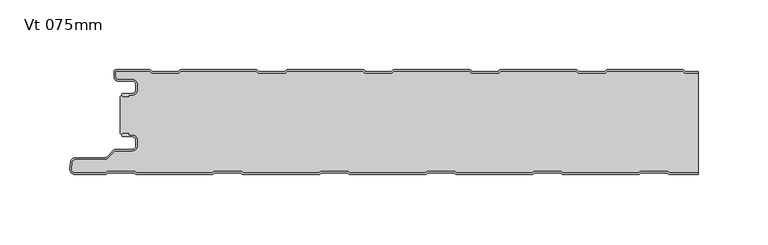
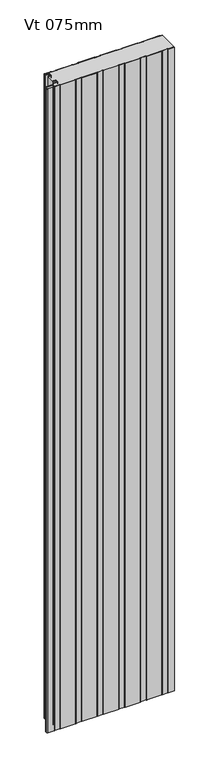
"""IFC4 building model written with IfcOpenShell, lengths in millimetres: plate geometry, KIP-MEX-KSS-1067-R19-CP-Vt-SL_SL : Vt 075mm."""

from ifc_helpers import new_model, si_unit, point, frame, frame_2d, origin, origin_with_axes, place, context, project, spatial, polyline, circle_curve, trimmed, segment, composite_curve, outline, extrude, source, transform, mapped, element, save
from ifc_brep_helpers import plane_surface, cylinder_surface, revolved_surface, advanced_brep


def vt_075mm_737b0a10(model_context):
    return source(origin(), model_context, "Body", "SolidModel", [
        advanced_brep(
        [(-204.468691, -17.0015159, 2400.0), (-205.4686883, -18.0015191, 2400.0), (-204.468691, -19.0015105, 2400.0), (-200.4684874, -19.0015105, 2400.0), (-200.4684874, -18.0015159, 2400.0), (-197.7762776, -18.0015159, 2400.0), (-194.4762819, -14.7015202, 2400.0), (-194.4762819, -10.301529, 2400.0), (-197.7762774, -7.0015335, 2400.0), (-208.1962563, -7.0015335, 2400.0), (-209.9662505, -5.2315393, 2400.0), (-209.9662505, -0.9999916, 2400.0), (-185.4659738, -0.9999916, 2400.0), (-184.0803312, -2.2002307, 2400.0), (-164.7051649, -2.2002307, 2400.0), (-163.319532, -1.0, 2400.0), (-109.2661166, -1.0, 2400.0), (-107.8804836, -2.2002307, 2400.0), (-88.5053173, -2.2002307, 2400.0), (-87.1196844, -1.0, 2400.0), (-33.066269, -1.0, 2400.0), (-31.680636, -2.2002307, 2400.0), (-12.3054697, -2.2002307, 2400.0), (-10.9198368, -1.0, 2400.0), (43.1335786, -1.0, 2400.0), (44.5192116, -2.2002307, 2400.0), (63.8943779, -2.2002307, 2400.0), (65.2800108, -1.0, 2400.0), (119.3334262, -1.0, 2400.0), (120.7190592, -2.2002307, 2400.0), (140.0942255, -2.2002307, 2400.0), (141.4798584, -1.0, 2400.0), (195.5332738, -1.0, 2400.0), (196.9189068, -2.2002307, 2400.0), (206.4999998, -2.2002307, 2400.0), (206.4999998, -1.2002307, 2400.0), (197.2917872, -1.2002307, 2400.0), (196.3007396, -0.3417885, 2400.0), (195.3841227, 0.0, 2400.0), (141.6290096, 0.0, 2400.0), (140.7123927, -0.3417885, 2400.0), (139.7213451, -1.2002307, 2400.0), (121.0919396, -1.2002307, 2400.0), (120.100892, -0.3417885, 2400.0), (119.1842751, 0.0, 2400.0), (65.429162, 0.0, 2400.0), (64.5125451, -0.3417885, 2400.0), (63.5214975, -1.2002307, 2400.0), (44.892092, -1.2002307, 2400.0), (43.9010444, -0.3417885, 2400.0), (42.9844275, 0.0, 2400.0), (-10.7706856, 0.0, 2400.0), (-11.6873025, -0.3417885, 2400.0), (-12.6783501, -1.2002307, 2400.0), (-31.3077556, -1.2002307, 2400.0), (-32.2988032, -0.3417885, 2400.0), (-33.2154201, 0.0, 2400.0), (-86.9705332, 0.0, 2400.0), (-87.8871501, -0.3417885, 2400.0), (-88.8781977, -1.2002307, 2400.0), (-107.5076032, -1.2002307, 2400.0), (-108.4986508, -0.3417885, 2400.0), (-109.4152677, 0.0, 2400.0), (-163.1703808, 0.0, 2400.0), (-164.0869977, -0.3417885, 2400.0), (-165.0780453, -1.2002307, 2400.0), (-183.7074508, -1.2002307, 2400.0), (-184.6984984, -0.3417885, 2400.0), (-185.6152067, 0.0, 2400.0), (-209.5662543, 8.4e-06, 2400.0), (-210.9662505, -1.3999878, 2400.0), (-210.9662505, -5.2315393, 2400.0), (-208.1962563, -8.0015335, 2400.0), (-197.7762774, -8.0015335, 2400.0), (-195.4762819, -10.301529, 2400.0), (-195.4762819, -14.7015202, 2400.0), (-197.7762776, -17.0015159, 2400.0), (-204.468691, -17.0015159, 0.0), (-197.7762776, -17.0015159, 0.0), (-195.4762819, -14.7015202, 0.0), (-195.4762819, -10.301529, 0.0), (-197.7762774, -8.0015335, 0.0), (-208.1962563, -8.0015335, 0.0), (-210.9662505, -5.2315393, 0.0), (-210.9662505, -1.3999878, 0.0), (-209.5662543, 8.4e-06, 0.0), (-185.6151153, 8.4e-06, 0.0), (-184.6984984, -0.3417885, 0.0), (-183.7074508, -1.2002307, 0.0), (-165.0780453, -1.2002307, 0.0), (-164.0869977, -0.3417885, 0.0), (-163.1703808, 0.0, 0.0), (-109.4152677, 0.0, 0.0), (-108.4986508, -0.3417885, 0.0), (-107.5076032, -1.2002307, 0.0), (-88.8781977, -1.2002307, 0.0), (-87.8871501, -0.3417885, 0.0), (-86.9705332, 0.0, 0.0), (-33.2154201, 0.0, 0.0), (-32.2988032, -0.3417885, 0.0), (-31.3077556, -1.2002307, 0.0), (-12.6783501, -1.2002307, 0.0), (-11.6873025, -0.3417885, 0.0), (-10.7706856, 0.0, 0.0), (42.9844275, 0.0, 0.0), (43.9010444, -0.3417885, 0.0), (44.892092, -1.2002307, 0.0), (63.5214975, -1.2002307, 0.0), (64.5125451, -0.3417885, 0.0), (65.429162, 0.0, 0.0), (119.1842751, 0.0, 0.0), (120.100892, -0.3417885, 0.0), (121.0919396, -1.2002307, 0.0), (139.7213451, -1.2002307, 0.0), (140.7123927, -0.3417885, 0.0), (141.6290096, 0.0, 0.0), (195.3841227, 0.0, 0.0), (196.3007396, -0.3417885, 0.0), (197.2917872, -1.2002307, 0.0), (206.4999998, -1.2002307, 0.0), (206.4999998, -2.2002307, 0.0), (196.9189068, -2.2002307, 0.0), (195.5332738, -1.0, 0.0), (141.4798584, -1.0, 0.0), (140.0942255, -2.2002307, 0.0), (120.7190592, -2.2002307, 0.0), (119.3334262, -1.0, 0.0), (65.2800108, -1.0, 0.0), (63.8943779, -2.2002307, 0.0), (44.5192116, -2.2002307, 0.0), (43.1335786, -1.0, 0.0), (-10.9198368, -1.0, 0.0), (-12.3054697, -2.2002307, 0.0), (-31.680636, -2.2002307, 0.0), (-33.066269, -1.0, 0.0), (-87.1196844, -1.0, 0.0), (-88.5053173, -2.2002307, 0.0), (-107.8804836, -2.2002307, 0.0), (-109.2661166, -1.0, 0.0), (-163.319532, -1.0, 0.0), (-164.7051649, -2.2002307, 0.0), (-184.0803312, -2.2002307, 0.0), (-185.4659738, -0.9999916, 0.0), (-209.9662505, -0.9999916, 0.0), (-209.9662505, -5.2315393, 0.0), (-208.1962563, -7.0015335, 0.0), (-197.7762774, -7.0015335, 0.0), (-194.4762819, -10.301529, 0.0), (-194.4762819, -14.7015202, 0.0), (-197.7762776, -18.0015159, 0.0), (-200.4684874, -18.0015159, 0.0), (-200.4684874, -19.0015105, 0.0), (-204.468691, -19.0015105, 0.0), (-205.4686882, -18.0015192, 0.0)],
        [
            (0, 1, circle_curve(frame((-204.468691, -18.0015132, 2400.0), z_axis=(0.0, 0.0, 1.0), x_axis=(1.0, 0.0, 0.0)), 0.9999973)),
            (1, 2, circle_curve(frame((-204.468691, -18.0015133, 2400.0), z_axis=(0.0, 0.0, 1.0), x_axis=(1.0, 0.0, 0.0)), 0.9999972)),
            (2, 3),
            (3, 4),
            (4, 5),
            (5, 6, circle_curve(frame((-197.7762776, -14.7015202, 2400.0), z_axis=(0.0, 0.0, 1.0), x_axis=(1.0, 0.0, 0.0)), 3.2999957)),
            (6, 7),
            (7, 8, circle_curve(frame((-197.7762774, -10.301529, 2400.0), z_axis=(0.0, 0.0, 1.0), x_axis=(1.0, 0.0, 0.0)), 3.2999955)),
            (8, 9),
            (9, 10, circle_curve(frame((-208.1962563, -5.2315393, 2400.0), z_axis=(0.0, 0.0, -1.0), x_axis=(1.0, 0.0, 0.0)), 1.7699942)),
            (10, 11),
            (11, 12),
            (12, 13),
            (13, 14),
            (14, 15),
            (15, 16),
            (16, 17),
            (17, 18),
            (18, 19),
            (19, 20),
            (20, 21),
            (21, 22),
            (22, 23),
            (23, 24),
            (24, 25),
            (25, 26),
            (26, 27),
            (27, 28),
            (28, 29),
            (29, 30),
            (30, 31),
            (31, 32),
            (32, 33),
            (33, 34),
            (34, 35),
            (35, 36),
            (36, 37),
            (37, 38, circle_curve(frame((195.3841227, -1.3999972, 2400.0), z_axis=(0.0, 0.0, 1.0), x_axis=(1.0, 0.0, 0.0)), 1.3999972)),
            (38, 39),
            (39, 40, circle_curve(frame((141.6290096, -1.3999972, 2400.0), z_axis=(0.0, 0.0, 1.0), x_axis=(1.0, 0.0, 0.0)), 1.3999972)),
            (40, 41),
            (41, 42),
            (42, 43),
            (43, 44, circle_curve(frame((119.1842751, -1.3999972, 2400.0), z_axis=(0.0, 0.0, 1.0), x_axis=(1.0, 0.0, 0.0)), 1.3999972)),
            (44, 45),
            (45, 46, circle_curve(frame((65.429162, -1.3999972, 2400.0), z_axis=(0.0, 0.0, 1.0), x_axis=(1.0, 0.0, 0.0)), 1.3999972)),
            (46, 47),
            (47, 48),
            (48, 49),
            (49, 50, circle_curve(frame((42.9844275, -1.3999972, 2400.0), z_axis=(0.0, 0.0, 1.0), x_axis=(1.0, 0.0, 0.0)), 1.3999972)),
            (50, 51),
            (51, 52, circle_curve(frame((-10.7706856, -1.3999972, 2400.0), z_axis=(0.0, 0.0, 1.0), x_axis=(1.0, 0.0, 0.0)), 1.3999972)),
            (52, 53),
            (53, 54),
            (54, 55),
            (55, 56, circle_curve(frame((-33.2154201, -1.3999972, 2400.0), z_axis=(0.0, 0.0, 1.0), x_axis=(1.0, 0.0, 0.0)), 1.3999972)),
            (56, 57),
            (57, 58, circle_curve(frame((-86.9705332, -1.3999972, 2400.0), z_axis=(0.0, 0.0, 1.0), x_axis=(1.0, 0.0, 0.0)), 1.3999972)),
            (58, 59),
            (59, 60),
            (60, 61),
            (61, 62, circle_curve(frame((-109.4152677, -1.3999972, 2400.0), z_axis=(0.0, 0.0, 1.0), x_axis=(1.0, 0.0, 0.0)), 1.3999972)),
            (62, 63),
            (63, 64, circle_curve(frame((-163.1703808, -1.3999972, 2400.0), z_axis=(0.0, 0.0, 1.0), x_axis=(1.0, 0.0, 0.0)), 1.3999972)),
            (64, 65),
            (65, 66),
            (66, 67),
            (67, 68, circle_curve(frame((-185.6151153, -1.3999972, 2400.0), z_axis=(0.0, 0.0, 1.0), x_axis=(1.0, 0.0, 0.0)), 1.3999972)),
            (68, 69),
            (69, 70, circle_curve(frame((-209.5662543, -1.3999878, 2400.0), z_axis=(0.0, 0.0, 1.0), x_axis=(1.0, 0.0, 0.0)), 1.3999962)),
            (70, 71),
            (71, 72, circle_curve(frame((-208.1962563, -5.2315393, 2400.0), z_axis=(0.0, 0.0, 1.0), x_axis=(1.0, 0.0, 0.0)), 2.7699942)),
            (72, 73),
            (73, 74, circle_curve(frame((-197.7762774, -10.301529, 2400.0), z_axis=(0.0, 0.0, -1.0), x_axis=(1.0, 0.0, 0.0)), 2.2999955)),
            (74, 75),
            (75, 76, circle_curve(frame((-197.7762776, -14.7015202, 2400.0), z_axis=(0.0, 0.0, -1.0), x_axis=(1.0, 0.0, 0.0)), 2.2999957)),
            (76, 0),
            (77, 78),
            (78, 79, circle_curve(frame((-197.7762776, -14.7015202, 0.0), z_axis=(0.0, 0.0, 1.0), x_axis=(1.0, 0.0, 0.0)), 2.2999957)),
            (79, 80),
            (80, 81, circle_curve(frame((-197.7762774, -10.301529, 0.0), z_axis=(0.0, 0.0, 1.0), x_axis=(1.0, 0.0, 0.0)), 2.2999955)),
            (81, 82),
            (82, 83, circle_curve(frame((-208.1962563, -5.2315393, 0.0), z_axis=(0.0, 0.0, -1.0), x_axis=(1.0, 0.0, 0.0)), 2.7699942)),
            (83, 84),
            (84, 85, circle_curve(frame((-209.5662543, -1.3999878, 0.0), z_axis=(0.0, 0.0, -1.0), x_axis=(1.0, 0.0, 0.0)), 1.3999962)),
            (85, 86),
            (86, 87, circle_curve(frame((-185.6151153, -1.3999972, 0.0), z_axis=(0.0, 0.0, -1.0), x_axis=(1.0, 0.0, 0.0)), 1.3999972)),
            (87, 88),
            (88, 89),
            (89, 90),
            (90, 91, circle_curve(frame((-163.1703808, -1.3999972, 0.0), z_axis=(0.0, 0.0, -1.0), x_axis=(1.0, 0.0, 0.0)), 1.3999972)),
            (91, 92),
            (92, 93, circle_curve(frame((-109.4152677, -1.3999972, 0.0), z_axis=(0.0, 0.0, -1.0), x_axis=(1.0, 0.0, 0.0)), 1.3999972)),
            (93, 94),
            (94, 95),
            (95, 96),
            (96, 97, circle_curve(frame((-86.9705332, -1.3999972, 0.0), z_axis=(0.0, 0.0, -1.0), x_axis=(1.0, 0.0, 0.0)), 1.3999972)),
            (97, 98),
            (98, 99, circle_curve(frame((-33.2154201, -1.3999972, 0.0), z_axis=(0.0, 0.0, -1.0), x_axis=(1.0, 0.0, 0.0)), 1.3999972)),
            (99, 100),
            (100, 101),
            (101, 102),
            (102, 103, circle_curve(frame((-10.7706856, -1.3999972, 0.0), z_axis=(0.0, 0.0, -1.0), x_axis=(1.0, 0.0, 0.0)), 1.3999972)),
            (103, 104),
            (104, 105, circle_curve(frame((42.9844275, -1.3999972, 0.0), z_axis=(0.0, 0.0, -1.0), x_axis=(1.0, 0.0, 0.0)), 1.3999972)),
            (105, 106),
            (106, 107),
            (107, 108),
            (108, 109, circle_curve(frame((65.429162, -1.3999972, 0.0), z_axis=(0.0, 0.0, -1.0), x_axis=(1.0, 0.0, 0.0)), 1.3999972)),
            (109, 110),
            (110, 111, circle_curve(frame((119.1842751, -1.3999972, 0.0), z_axis=(0.0, 0.0, -1.0), x_axis=(1.0, 0.0, 0.0)), 1.3999972)),
            (111, 112),
            (112, 113),
            (113, 114),
            (114, 115, circle_curve(frame((141.6290096, -1.3999972, 0.0), z_axis=(0.0, 0.0, -1.0), x_axis=(1.0, 0.0, 0.0)), 1.3999972)),
            (115, 116),
            (116, 117, circle_curve(frame((195.3841227, -1.3999972, 0.0), z_axis=(0.0, 0.0, -1.0), x_axis=(1.0, 0.0, 0.0)), 1.3999972)),
            (117, 118),
            (118, 119),
            (119, 120),
            (120, 121),
            (121, 122),
            (122, 123),
            (123, 124),
            (124, 125),
            (125, 126),
            (126, 127),
            (127, 128),
            (128, 129),
            (129, 130),
            (130, 131),
            (131, 132),
            (132, 133),
            (133, 134),
            (134, 135),
            (135, 136),
            (136, 137),
            (137, 138),
            (138, 139),
            (139, 140),
            (140, 141),
            (141, 142),
            (142, 143),
            (143, 144),
            (144, 145, circle_curve(frame((-208.1962563, -5.2315393, 0.0), z_axis=(0.0, 0.0, 1.0), x_axis=(1.0, 0.0, 0.0)), 1.7699942)),
            (145, 146),
            (146, 147, circle_curve(frame((-197.7762774, -10.301529, 0.0), z_axis=(0.0, 0.0, -1.0), x_axis=(1.0, 0.0, 0.0)), 3.2999955)),
            (147, 148),
            (148, 149, circle_curve(frame((-197.7762776, -14.7015202, 0.0), z_axis=(0.0, 0.0, -1.0), x_axis=(1.0, 0.0, 0.0)), 3.2999957)),
            (149, 150),
            (150, 151),
            (151, 152),
            (152, 153, circle_curve(frame((-204.468691, -18.0015133, 0.0), z_axis=(0.0, 0.0, -1.0), x_axis=(1.0, 0.0, 0.0)), 0.9999972)),
            (153, 77, circle_curve(frame((-204.468691, -18.0015132, 0.0), z_axis=(0.0, 0.0, -1.0), x_axis=(1.0, 0.0, 0.0)), 0.9999973)),
            (76, 78),
            (77, 0),
            (75, 79),
            (74, 80),
            (73, 81),
            (72, 82),
            (71, 83),
            (70, 84),
            (69, 85),
            (68, 86),
            (67, 87),
            (66, 88),
            (65, 89),
            (64, 90),
            (63, 91),
            (62, 92),
            (61, 93),
            (60, 94),
            (59, 95),
            (58, 96),
            (57, 97),
            (56, 98),
            (55, 99),
            (54, 100),
            (53, 101),
            (52, 102),
            (51, 103),
            (50, 104),
            (49, 105),
            (48, 106),
            (47, 107),
            (46, 108),
            (45, 109),
            (44, 110),
            (43, 111),
            (42, 112),
            (41, 113),
            (40, 114),
            (39, 115),
            (38, 116),
            (37, 117),
            (36, 118),
            (35, 119),
            (120, 34),
            (33, 121),
            (32, 122),
            (31, 123),
            (30, 124),
            (29, 125),
            (28, 126),
            (27, 127),
            (26, 128),
            (25, 129),
            (24, 130),
            (23, 131),
            (22, 132),
            (21, 133),
            (20, 134),
            (19, 135),
            (18, 136),
            (17, 137),
            (16, 138),
            (15, 139),
            (14, 140),
            (13, 141),
            (12, 142),
            (11, 143),
            (10, 144),
            (9, 145),
            (8, 146),
            (7, 147),
            (6, 148),
            (5, 149),
            (4, 150),
            (3, 151),
            (2, 152),
            (1, 153),
        ],
        [
            plane_surface(frame((326.9000002, 0.0, 2400.0), z_axis=(0.0, 0.0, 1.0), x_axis=(0.0, 1.0, 0.0))),
            plane_surface(frame((326.9000002, 0.0, 0.0), z_axis=(0.0, 0.0, -1.0), x_axis=(0.0, 1.0, 0.0))),
            plane_surface(frame((-204.468691, -17.0015159, 2400.0), z_axis=(0.0, 1.0, 0.0), x_axis=(0.0, 0.0, -1.0))),
            revolved_surface(polyline([(-195.47628189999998, -14.7015202, 0.0), (-195.47628189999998, -14.7015202, 2400.0)]), (-197.7762776, -14.7015202, 2400.0), (0.0, 0.0, -1.0)),
            plane_surface(frame((-195.4762819, -14.7015202, 2400.0), z_axis=(-1.0, 0.0, 0.0), x_axis=(0.0, 0.0, -1.0))),
            revolved_surface(polyline([(-195.4762819, -10.301529, 0.0), (-195.4762819, -10.301529, 2400.0)]), (-197.7762774, -10.301529, 2400.0), (0.0, 0.0, -1.0)),
            plane_surface(frame((-197.7762774, -8.0015335, 2400.0), z_axis=(0.0, -1.0, 0.0), x_axis=(0.0, 0.0, -1.0))),
            cylinder_surface(frame((-208.1962563, -5.2315393, 2400.0), z_axis=(0.0, 0.0, 1.0), x_axis=(1.0, 0.0, 0.0)), 2.7699942),
            plane_surface(frame((-210.9662505, -5.2315393, 2400.0), z_axis=(-1.0, 0.0, 0.0), x_axis=(0.0, 0.0, -1.0))),
            cylinder_surface(frame((-209.5662543, -1.3999878, 2400.0), z_axis=(0.0, 0.0, 1.0), x_axis=(1.0, 0.0, 0.0)), 1.3999962),
            plane_surface(frame((-209.5662543, 8.4e-06, 2400.0), z_axis=(0.0, 1.0, 0.0), x_axis=(0.0, 0.0, -1.0))),
            cylinder_surface(frame((-185.6151153, -1.3999972, 2400.0), z_axis=(0.0, 0.0, 1.0), x_axis=(1.0, 0.0, 0.0)), 1.3999972),
            plane_surface(frame((-184.6984984, -0.3417885, 2400.0), z_axis=(0.6547276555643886, 0.755864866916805, 0.0), x_axis=(0.0, 0.0, -1.0))),
            plane_surface(frame((-174.3927481, -1.2002307, 2400.0), z_axis=(0.0, 1.0, 0.0), x_axis=(0.0, 0.0, -1.0))),
            plane_surface(frame((-165.0780453, -1.2002307, 2400.0), z_axis=(-0.6547276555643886, 0.755864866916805, 0.0), x_axis=(0.0, 0.0, -1.0))),
            cylinder_surface(frame((-163.1703808, -1.3999972, 2400.0), z_axis=(0.0, 0.0, 1.0), x_axis=(1.0, 0.0, 0.0)), 1.3999972),
            plane_surface(frame((-163.1703808, 0.0, 2400.0), z_axis=(0.0, 1.0, 0.0), x_axis=(0.0, 0.0, -1.0))),
            cylinder_surface(frame((-109.4152677, -1.3999972, 2400.0), z_axis=(0.0, 0.0, 1.0), x_axis=(1.0, 0.0, 0.0)), 1.3999972),
            plane_surface(frame((-108.4986508, -0.3417885, 2400.0), z_axis=(0.6547276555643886, 0.755864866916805, 0.0), x_axis=(0.0, 0.0, -1.0))),
            plane_surface(frame((-98.1929005, -1.2002307, 2400.0), z_axis=(0.0, 1.0, 0.0), x_axis=(0.0, 0.0, -1.0))),
            plane_surface(frame((-88.8781977, -1.2002307, 2400.0), z_axis=(-0.6547276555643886, 0.755864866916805, 0.0), x_axis=(0.0, 0.0, -1.0))),
            cylinder_surface(frame((-86.9705332, -1.3999972, 2400.0), z_axis=(0.0, 0.0, 1.0), x_axis=(1.0, 0.0, 0.0)), 1.3999972),
            plane_surface(frame((-86.9705332, 0.0, 2400.0), z_axis=(0.0, 1.0, 0.0), x_axis=(0.0, 0.0, -1.0))),
            cylinder_surface(frame((-33.2154201, -1.3999972, 2400.0), z_axis=(0.0, 0.0, 1.0), x_axis=(1.0, 0.0, 0.0)), 1.3999972),
            plane_surface(frame((-32.2988032, -0.3417885, 2400.0), z_axis=(0.6547276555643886, 0.755864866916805, 0.0), x_axis=(0.0, 0.0, -1.0))),
            plane_surface(frame((-21.9930529, -1.2002307, 2400.0), z_axis=(0.0, 1.0, 0.0), x_axis=(0.0, 0.0, -1.0))),
            plane_surface(frame((-12.6783501, -1.2002307, 2400.0), z_axis=(-0.6547276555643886, 0.755864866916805, 0.0), x_axis=(0.0, 0.0, -1.0))),
            cylinder_surface(frame((-10.7706856, -1.3999972, 2400.0), z_axis=(0.0, 0.0, 1.0), x_axis=(1.0, 0.0, 0.0)), 1.3999972),
            plane_surface(frame((-10.7706856, 0.0, 2400.0), z_axis=(0.0, 1.0, 0.0), x_axis=(0.0, 0.0, -1.0))),
            cylinder_surface(frame((42.9844275, -1.3999972, 2400.0), z_axis=(0.0, 0.0, 1.0), x_axis=(1.0, 0.0, 0.0)), 1.3999972),
            plane_surface(frame((43.9010444, -0.3417885, 2400.0), z_axis=(0.6547276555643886, 0.755864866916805, 0.0), x_axis=(0.0, 0.0, -1.0))),
            plane_surface(frame((54.2067947, -1.2002307, 2400.0), z_axis=(0.0, 1.0, 0.0), x_axis=(0.0, 0.0, -1.0))),
            plane_surface(frame((63.5214975, -1.2002307, 2400.0), z_axis=(-0.6547276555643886, 0.755864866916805, 0.0), x_axis=(0.0, 0.0, -1.0))),
            cylinder_surface(frame((65.429162, -1.3999972, 2400.0), z_axis=(0.0, 0.0, 1.0), x_axis=(1.0, 0.0, 0.0)), 1.3999972),
            plane_surface(frame((65.429162, 0.0, 2400.0), z_axis=(0.0, 1.0, 0.0), x_axis=(0.0, 0.0, -1.0))),
            cylinder_surface(frame((119.1842751, -1.3999972, 2400.0), z_axis=(0.0, 0.0, 1.0), x_axis=(1.0, 0.0, 0.0)), 1.3999972),
            plane_surface(frame((120.100892, -0.3417885, 2400.0), z_axis=(0.6547276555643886, 0.755864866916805, 0.0), x_axis=(0.0, 0.0, -1.0))),
            plane_surface(frame((130.4066423, -1.2002307, 2400.0), z_axis=(0.0, 1.0, 0.0), x_axis=(0.0, 0.0, -1.0))),
            plane_surface(frame((139.7213451, -1.2002307, 2400.0), z_axis=(-0.6547276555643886, 0.755864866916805, 0.0), x_axis=(0.0, 0.0, -1.0))),
            cylinder_surface(frame((141.6290096, -1.3999972, 2400.0), z_axis=(0.0, 0.0, 1.0), x_axis=(1.0, 0.0, 0.0)), 1.3999972),
            plane_surface(frame((141.6290096, 0.0, 2400.0), z_axis=(0.0, 1.0, 0.0), x_axis=(0.0, 0.0, -1.0))),
            cylinder_surface(frame((195.3841227, -1.3999972, 2400.0), z_axis=(0.0, 0.0, 1.0), x_axis=(1.0, 0.0, 0.0)), 1.3999972),
            plane_surface(frame((196.3007396, -0.3417885, 2400.0), z_axis=(0.6547276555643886, 0.755864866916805, 0.0), x_axis=(0.0, 0.0, -1.0))),
            plane_surface(frame((206.6064899, -1.2002307, 2400.0), z_axis=(0.0, 1.0, 0.0), x_axis=(0.0, 0.0, -1.0))),
            plane_surface(frame((216.2940731, -2.2002307, 2400.0), z_axis=(0.0, -1.0, 0.0), x_axis=(0.0, 0.0, -1.0))),
            plane_surface(frame((196.9189068, -2.2002307, 2400.0), z_axis=(-0.6547276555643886, -0.755864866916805, 0.0), x_axis=(0.0, 0.0, -1.0))),
            plane_surface(frame((195.5332738, -1.0, 2400.0), z_axis=(0.0, -1.0, 0.0), x_axis=(0.0, 0.0, -1.0))),
            plane_surface(frame((141.4798584, -1.0, 2400.0), z_axis=(0.6547276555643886, -0.755864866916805, 0.0), x_axis=(0.0, 0.0, -1.0))),
            plane_surface(frame((140.0942255, -2.2002307, 2400.0), z_axis=(0.0, -1.0, 0.0), x_axis=(0.0, 0.0, -1.0))),
            plane_surface(frame((120.7190592, -2.2002307, 2400.0), z_axis=(-0.6547276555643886, -0.755864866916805, 0.0), x_axis=(0.0, 0.0, -1.0))),
            plane_surface(frame((119.3334262, -1.0, 2400.0), z_axis=(0.0, -1.0, 0.0), x_axis=(0.0, 0.0, -1.0))),
            plane_surface(frame((65.2800108, -1.0, 2400.0), z_axis=(0.6547276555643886, -0.755864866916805, 0.0), x_axis=(0.0, 0.0, -1.0))),
            plane_surface(frame((63.8943779, -2.2002307, 2400.0), z_axis=(0.0, -1.0, 0.0), x_axis=(0.0, 0.0, -1.0))),
            plane_surface(frame((44.5192116, -2.2002307, 2400.0), z_axis=(-0.6547276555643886, -0.755864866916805, 0.0), x_axis=(0.0, 0.0, -1.0))),
            plane_surface(frame((43.1335786, -1.0, 2400.0), z_axis=(0.0, -1.0, 0.0), x_axis=(0.0, 0.0, -1.0))),
            plane_surface(frame((-10.9198368, -1.0, 2400.0), z_axis=(0.6547276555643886, -0.755864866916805, 0.0), x_axis=(0.0, 0.0, -1.0))),
            plane_surface(frame((-12.3054697, -2.2002307, 2400.0), z_axis=(0.0, -1.0, 0.0), x_axis=(0.0, 0.0, -1.0))),
            plane_surface(frame((-31.680636, -2.2002307, 2400.0), z_axis=(-0.6547276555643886, -0.755864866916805, 0.0), x_axis=(0.0, 0.0, -1.0))),
            plane_surface(frame((-33.066269, -1.0, 2400.0), z_axis=(0.0, -1.0, 0.0), x_axis=(0.0, 0.0, -1.0))),
            plane_surface(frame((-87.1196844, -1.0, 2400.0), z_axis=(0.6547276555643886, -0.755864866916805, 0.0), x_axis=(0.0, 0.0, -1.0))),
            plane_surface(frame((-88.5053173, -2.2002307, 2400.0), z_axis=(0.0, -1.0, 0.0), x_axis=(0.0, 0.0, -1.0))),
            plane_surface(frame((-107.8804836, -2.2002307, 2400.0), z_axis=(-0.6547276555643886, -0.755864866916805, 0.0), x_axis=(0.0, 0.0, -1.0))),
            plane_surface(frame((-109.2661166, -1.0, 2400.0), z_axis=(0.0, -1.0, 0.0), x_axis=(0.0, 0.0, -1.0))),
            plane_surface(frame((-163.319532, -1.0, 2400.0), z_axis=(0.6547276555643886, -0.755864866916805, 0.0), x_axis=(0.0, 0.0, -1.0))),
            plane_surface(frame((-164.7051649, -2.2002307, 2400.0), z_axis=(0.0, -1.0, 0.0), x_axis=(0.0, 0.0, -1.0))),
            plane_surface(frame((-184.0803312, -2.2002307, 2400.0), z_axis=(-0.6547276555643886, -0.755864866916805, 0.0), x_axis=(0.0, 0.0, -1.0))),
            plane_surface(frame((-185.4659738, -0.9999916, 2400.0), z_axis=(0.0, -1.0, 0.0), x_axis=(0.0, 0.0, -1.0))),
            plane_surface(frame((-209.9662505, -0.9999916, 2400.0), z_axis=(1.0, 0.0, 0.0), x_axis=(0.0, 0.0, -1.0))),
            revolved_surface(polyline([(-206.42626209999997, -5.2315393, 0.0), (-206.42626209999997, -5.2315393, 2400.0)]), (-208.1962563, -5.2315393, 2400.0), (0.0, 0.0, -1.0)),
            plane_surface(frame((-208.1962563, -7.0015335, 2400.0), z_axis=(0.0, 1.0, 0.0), x_axis=(0.0, 0.0, -1.0))),
            cylinder_surface(frame((-197.7762774, -10.301529, 2400.0), z_axis=(0.0, 0.0, 1.0), x_axis=(1.0, 0.0, 0.0)), 3.2999955),
            plane_surface(frame((-194.4762819, -10.301529, 2400.0), z_axis=(1.0, 0.0, 0.0), x_axis=(0.0, 0.0, -1.0))),
            cylinder_surface(frame((-197.7762776, -14.7015202, 2400.0), z_axis=(0.0, 0.0, 1.0), x_axis=(1.0, 0.0, 0.0)), 3.2999957),
            plane_surface(frame((-197.7762776, -18.0015159, 2400.0), z_axis=(0.0, -1.0, 0.0), x_axis=(0.0, 0.0, -1.0))),
            plane_surface(frame((-200.4684874, -18.0015159, 2400.0), z_axis=(1.0, 0.0, 0.0), x_axis=(0.0, 0.0, -1.0))),
            plane_surface(frame((-200.4684874, -19.0015105, 2400.0), z_axis=(0.0, -1.0, 0.0), x_axis=(0.0, 0.0, -1.0))),
            cylinder_surface(frame((-204.468691, -18.0015133, 2400.0), z_axis=(0.0, 0.0, 1.0), x_axis=(1.0, 0.0, 0.0)), 0.9999972),
            cylinder_surface(frame((-204.468691, -18.0015132, 2400.0), z_axis=(0.0, 0.0, 1.0), x_axis=(1.0, 0.0, 0.0)), 0.9999973),
            plane_surface(frame((206.4999998, -85.0, 2400.0), z_axis=(1.0, 0.0, 0.0), x_axis=(0.0, 0.0, -1.0))),
        ],
        [
            (0, [[1, 2, 3, 4, 5, 6, 7, 8, 9, 10, 11, 12, 13, 14, 15, 16, 17, 18, 19, 20, 21, 22, 23, 24, 25, 26, 27, 28, 29, 30, 31, 32, 33, 34, 35, 36, 37, 38, 39, 40, 41, 42, 43, 44, 45, 46, 47, 48, 49, 50, 51, 52, 53, 54, 55, 56, 57, 58, 59, 60, 61, 62, 63, 64, 65, 66, 67, 68, 69, 70, 71, 72, 73, 74, 75, 76, 77]]),
            (1, [[78, 79, 80, 81, 82, 83, 84, 85, 86, 87, 88, 89, 90, 91, 92, 93, 94, 95, 96, 97, 98, 99, 100, 101, 102, 103, 104, 105, 106, 107, 108, 109, 110, 111, 112, 113, 114, 115, 116, 117, 118, 119, 120, 121, 122, 123, 124, 125, 126, 127, 128, 129, 130, 131, 132, 133, 134, 135, 136, 137, 138, 139, 140, 141, 142, 143, 144, 145, 146, 147, 148, 149, 150, 151, 152, 153, 154]]),
            (2, [[155, -78, 156, -77]]),
            (3, [[157, -79, -155, -76]]),
            (4, [[158, -80, -157, -75]]),
            (5, [[159, -81, -158, -74]]),
            (6, [[160, -82, -159, -73]]),
            (7, [[161, -83, -160, -72]]),
            (8, [[162, -84, -161, -71]]),
            (9, [[163, -85, -162, -70]]),
            (10, [[164, -86, -163, -69]]),
            (11, [[165, -87, -164, -68]]),
            (12, [[166, -88, -165, -67]]),
            (13, [[167, -89, -166, -66]]),
            (14, [[168, -90, -167, -65]]),
            (15, [[169, -91, -168, -64]]),
            (16, [[170, -92, -169, -63]]),
            (17, [[171, -93, -170, -62]]),
            (18, [[172, -94, -171, -61]]),
            (19, [[173, -95, -172, -60]]),
            (20, [[174, -96, -173, -59]]),
            (21, [[175, -97, -174, -58]]),
            (22, [[176, -98, -175, -57]]),
            (23, [[177, -99, -176, -56]]),
            (24, [[178, -100, -177, -55]]),
            (25, [[179, -101, -178, -54]]),
            (26, [[180, -102, -179, -53]]),
            (27, [[181, -103, -180, -52]]),
            (28, [[182, -104, -181, -51]]),
            (29, [[183, -105, -182, -50]]),
            (30, [[184, -106, -183, -49]]),
            (31, [[185, -107, -184, -48]]),
            (32, [[186, -108, -185, -47]]),
            (33, [[187, -109, -186, -46]]),
            (34, [[188, -110, -187, -45]]),
            (35, [[189, -111, -188, -44]]),
            (36, [[190, -112, -189, -43]]),
            (37, [[191, -113, -190, -42]]),
            (38, [[192, -114, -191, -41]]),
            (39, [[193, -115, -192, -40]]),
            (40, [[194, -116, -193, -39]]),
            (41, [[195, -117, -194, -38]]),
            (42, [[196, -118, -195, -37]]),
            (43, [[-36, 197, -119, -196]]),
            (44, [[-121, 198, -34, 199]]),
            (45, [[200, -122, -199, -33]]),
            (46, [[201, -123, -200, -32]]),
            (47, [[202, -124, -201, -31]]),
            (48, [[203, -125, -202, -30]]),
            (49, [[204, -126, -203, -29]]),
            (50, [[205, -127, -204, -28]]),
            (51, [[206, -128, -205, -27]]),
            (52, [[207, -129, -206, -26]]),
            (53, [[208, -130, -207, -25]]),
            (54, [[209, -131, -208, -24]]),
            (55, [[210, -132, -209, -23]]),
            (56, [[211, -133, -210, -22]]),
            (57, [[212, -134, -211, -21]]),
            (58, [[213, -135, -212, -20]]),
            (59, [[214, -136, -213, -19]]),
            (60, [[215, -137, -214, -18]]),
            (61, [[216, -138, -215, -17]]),
            (62, [[217, -139, -216, -16]]),
            (63, [[218, -140, -217, -15]]),
            (64, [[219, -141, -218, -14]]),
            (65, [[220, -142, -219, -13]]),
            (66, [[221, -143, -220, -12]]),
            (67, [[222, -144, -221, -11]]),
            (68, [[223, -145, -222, -10]]),
            (69, [[224, -146, -223, -9]]),
            (70, [[225, -147, -224, -8]]),
            (71, [[226, -148, -225, -7]]),
            (72, [[227, -149, -226, -6]]),
            (73, [[228, -150, -227, -5]]),
            (74, [[229, -151, -228, -4]]),
            (75, [[230, -152, -229, -3]]),
            (76, [[231, -153, -230, -2]]),
            (77, [[-156, -154, -231, -1]]),
            (78, [[-198, -120, -197, -35]]),
        ],
    ),
        extrude(outline(composite_curve([segment(polyline([(-217.1415932, -75.0006394), (-238.9521175, -75.0006394)]), True, "CONTINUOUS"), segment(trimmed(circle_curve(frame_2d((-238.9521175, -71.4304001)), 3.5702393), [point((-238.9521175, -75.0006394))], [point((-242.5087619, -71.1191297))], False, "CARTESIAN"), True, "CONTINUOUS"), segment(polyline([(-242.5087619, -71.1191297), (-242.0690674, -66.0950831)]), True, "CONTINUOUS"), segment(trimmed(circle_curve(frame_2d((-238.4198391, -66.7058842)), 3.6999926), [point((-242.0690674, -66.0950831))], [point((-238.4198391, -63.0058916))], False, "CARTESIAN"), True, "CONTINUOUS"), segment(polyline([(-238.4198391, -63.0058916), (-217.2773995, -63.0058916)]), True, "CONTINUOUS"), segment(trimmed(circle_curve(frame_2d((-217.2773995, -61.7058942)), 1.2999974), [point((-217.2773995, -63.0058916))], [point((-216.3581626, -62.6251312))], True, "CARTESIAN"), True, "CONTINUOUS"), segment(polyline([(-216.3581626, -62.6251312), (-211.5297451, -57.7967137)]), True, "CONTINUOUS"), segment(trimmed(circle_curve(frame_2d((-209.6205606, -59.7058982)), 2.6999946), [point((-211.5297451, -57.7967137))], [point((-209.6205606, -57.0059036))], False, "CARTESIAN"), True, "CONTINUOUS"), segment(polyline([(-209.6205606, -57.0059036), (-197.8096715, -57.0059036)]), True, "CONTINUOUS"), segment(trimmed(circle_curve(frame_2d((-197.8096715, -54.6559083)), 2.3499953), [point((-197.8096715, -57.0059036))], [point((-195.4596762, -54.6559083))], True, "CARTESIAN"), True, "CONTINUOUS"), segment(polyline([(-195.4596762, -54.6559083), (-195.4596762, -50.2559171)]), True, "CONTINUOUS"), segment(trimmed(circle_curve(frame_2d((-197.8096715, -50.2559171)), 2.3499953), [point((-195.4596762, -50.2559171))], [point((-197.8096715, -47.9059218))], True, "CARTESIAN"), True, "CONTINUOUS"), segment(polyline([(-197.8096715, -47.9059218), (-204.3289777, -47.9059218)]), True, "CONTINUOUS"), segment(trimmed(circle_curve(frame_2d((-204.2686906, -46.7074396)), 1.1999976), [point((-204.3289777, -47.9059218))], [point((-205.4683, -46.6769177))], False, "CARTESIAN"), True, "CONTINUOUS"), segment(trimmed(circle_curve(frame_2d((-204.2686906, -46.7074396)), 1.1999976), [point((-205.4683, -46.6769177))], [point((-204.267176, -45.5074429))], False, "CARTESIAN"), True, "CONTINUOUS"), segment(polyline([(-204.267176, -45.5074429), (-200.5087826, -45.5074429), (-200.5087826, -46.9059218), (-197.8096715, -46.9059218)]), True, "CONTINUOUS"), segment(trimmed(circle_curve(frame_2d((-197.8096715, -50.2559171)), 3.3499953), [point((-197.8096715, -46.9059218))], [point((-194.4596762, -50.2559171))], False, "CARTESIAN"), True, "CONTINUOUS"), segment(polyline([(-194.4596762, -50.2559171), (-194.4596762, -54.6559083)]), True, "CONTINUOUS"), segment(trimmed(circle_curve(frame_2d((-197.8096715, -54.6559083)), 3.3499953), [point((-194.4596762, -54.6559083))], [point((-197.8096715, -58.0059036))], False, "CARTESIAN"), True, "CONTINUOUS"), segment(polyline([(-197.8096715, -58.0059036), (-209.6205606, -58.0059036)]), True, "CONTINUOUS"), segment(trimmed(circle_curve(frame_2d((-209.6205606, -59.7058982)), 1.6999946), [point((-209.6205606, -58.0059036))], [point((-210.8226383, -58.5038205))], True, "CARTESIAN"), True, "CONTINUOUS"), segment(polyline([(-210.8226383, -58.5038205), (-216.3247094, -64.0058916), (-238.4198391, -64.0058916)]), True, "CONTINUOUS"), segment(trimmed(circle_curve(frame_2d((-238.4198391, -66.7058842)), 2.6999926), [point((-238.4198391, -64.0058916))], [point((-241.0765707, -66.2244936))], True, "CARTESIAN"), True, "CONTINUOUS"), segment(polyline([(-241.0765707, -66.2244936), (-241.5125697, -71.2063145)]), True, "CONTINUOUS"), segment(trimmed(circle_curve(frame_2d((-238.9521175, -71.4304001)), 2.5702393), [point((-241.5125697, -71.2063145))], [point((-238.9521175, -74.0006394))], True, "CARTESIAN"), True, "CONTINUOUS"), segment(polyline([(-238.9521175, -74.0006394), (-216.979096, -74.0006394), (-215.7791275, -72.8006709), (-196.059715, -72.8006709), (-194.8594843, -74.0009016), (-140.7793525, -74.0009016), (-139.5791218, -72.8006709), (-119.8597093, -72.8006709), (-118.6594786, -74.0009016), (-64.5793468, -74.0009016), (-63.3791161, -72.8006709), (-43.6597036, -72.8006709), (-42.4594729, -74.0009016), (11.6206589, -74.0009016), (12.8208896, -72.8006709), (32.5403021, -72.8006709), (33.7405328, -74.0009016), (87.8206646, -74.0009016), (89.0208953, -72.8006709), (108.7403078, -72.8006709), (109.9405385, -74.0009016), (164.0206703, -74.0009016), (165.220901, -72.8006709), (184.9403135, -72.8006709), (186.1405442, -74.0009016), (206.4999998, -74.0009016), (206.4999998, -75.0009016), (186.3099792, -75.0009016)]), True, "CONTINUOUS"), segment(trimmed(circle_curve(frame_2d((186.3023258, -73.6009253)), 1.3999972), [point((186.3099792, -75.0009016))], [point((185.258275, -74.5336365))], False, "CARTESIAN"), True, "CONTINUOUS"), segment(polyline([(185.258275, -74.5336365), (184.5253094, -73.8006709), (165.6346402, -73.8006709), (164.9016956, -74.5336156)]), True, "CONTINUOUS"), segment(trimmed(circle_curve(frame_2d((163.8576448, -73.6009044)), 1.3999972), [point((164.9016956, -74.5336156))], [point((163.8576448, -75.0009016))], False, "CARTESIAN"), True, "CONTINUOUS"), segment(polyline([(163.8576448, -75.0009016), (110.1101316, -75.0009016)]), True, "CONTINUOUS"), segment(trimmed(circle_curve(frame_2d((110.1024782, -73.6009253)), 1.3999972), [point((110.1101316, -75.0009016))], [point((109.0584274, -74.5336365))], False, "CARTESIAN"), True, "CONTINUOUS"), segment(polyline([(109.0584274, -74.5336365), (108.3254618, -73.8006709), (89.4347926, -73.8006709), (88.701848, -74.5336156)]), True, "CONTINUOUS"), segment(trimmed(circle_curve(frame_2d((87.6577972, -73.6009044)), 1.3999972), [point((88.701848, -74.5336156))], [point((87.6577972, -75.0009016))], False, "CARTESIAN"), True, "CONTINUOUS"), segment(polyline([(87.6577972, -75.0009016), (33.910284, -75.0009016)]), True, "CONTINUOUS"), segment(trimmed(circle_curve(frame_2d((33.9026306, -73.6009253)), 1.3999972), [point((33.910284, -75.0009016))], [point((32.8585798, -74.5336365))], False, "CARTESIAN"), True, "CONTINUOUS"), segment(polyline([(32.8585798, -74.5336365), (32.1256142, -73.8006709), (13.234945, -73.8006709), (12.5020004, -74.5336156)]), True, "CONTINUOUS"), segment(trimmed(circle_curve(frame_2d((11.4579496, -73.6009044)), 1.3999972), [point((12.5020004, -74.5336156))], [point((11.4579496, -75.0009016))], False, "CARTESIAN"), True, "CONTINUOUS"), segment(polyline([(11.4579496, -75.0009016), (-42.2895636, -75.0009016)]), True, "CONTINUOUS"), segment(trimmed(circle_curve(frame_2d((-42.297217, -73.6009253)), 1.3999972), [point((-42.2895636, -75.0009016))], [point((-43.3412678, -74.5336365))], False, "CARTESIAN"), True, "CONTINUOUS"), segment(polyline([(-43.3412678, -74.5336365), (-44.0742334, -73.8006709), (-62.9649026, -73.8006709), (-63.6978472, -74.5336156)]), True, "CONTINUOUS"), segment(trimmed(circle_curve(frame_2d((-64.741898, -73.6009044)), 1.3999972), [point((-63.6978472, -74.5336156))], [point((-64.741898, -75.0009016))], False, "CARTESIAN"), True, "CONTINUOUS"), segment(polyline([(-64.741898, -75.0009016), (-118.4894112, -75.0009016)]), True, "CONTINUOUS"), segment(trimmed(circle_curve(frame_2d((-118.4970646, -73.6009253)), 1.3999972), [point((-118.4894112, -75.0009016))], [point((-119.5411154, -74.5336365))], False, "CARTESIAN"), True, "CONTINUOUS"), segment(polyline([(-119.5411154, -74.5336365), (-120.274081, -73.8006709), (-139.1647502, -73.8006709), (-139.8976948, -74.5336156)]), True, "CONTINUOUS"), segment(trimmed(circle_curve(frame_2d((-140.9417456, -73.6009044)), 1.3999972), [point((-139.8976948, -74.5336156))], [point((-140.9417456, -75.0009016))], False, "CARTESIAN"), True, "CONTINUOUS"), segment(polyline([(-140.9417456, -75.0009016), (-194.6892588, -75.0009016)]), True, "CONTINUOUS"), segment(trimmed(circle_curve(frame_2d((-194.6969122, -73.6009253)), 1.3999972), [point((-194.6892588, -75.0009016))], [point((-195.740963, -74.5336365))], False, "CARTESIAN"), True, "CONTINUOUS"), segment(polyline([(-195.740963, -74.5336365), (-196.4739286, -73.8006709), (-215.3649139, -73.8006709), (-216.0976402, -74.5333971)]), True, "CONTINUOUS"), segment(trimmed(circle_curve(frame_2d((-217.1415932, -73.6007733)), 1.3998661), [point((-216.0976402, -74.5333971))], [point((-217.1415932, -75.0006394))], False, "CARTESIAN"), True, "CONTINUOUS")], self_intersect=False)), origin_with_axes(), (0.0, 0.0, 1.0), 2400.0),
        extrude(outline(composite_curve([segment(polyline([(-205.4683, -46.670875), (-206.4999998, -45.6391751), (-206.4999998, -19.0328308), (-205.4686882, -18.0015192)]), True, "CONTINUOUS"), segment(trimmed(circle_curve(frame_2d((-204.468691, -18.0015133)), 0.9999972), [point((-205.4686882, -18.0015192))], [point((-204.468691, -19.0015105))], True, "CARTESIAN"), True, "CONTINUOUS"), segment(polyline([(-204.468691, -19.0015105), (-200.4684873, -19.0015105), (-200.4684873, -18.0015159), (-197.7762775, -18.0015159)]), True, "CONTINUOUS"), segment(trimmed(circle_curve(frame_2d((-197.7762775, -14.7015202)), 3.2999957), [point((-197.7762775, -18.0015159))], [point((-194.4762818, -14.7015202))], True, "CARTESIAN"), True, "CONTINUOUS"), segment(polyline([(-194.4762818, -14.7015202), (-194.4762818, -10.301529)]), True, "CONTINUOUS"), segment(trimmed(circle_curve(frame_2d((-197.7762777, -10.301529)), 3.2999959), [point((-194.4762818, -10.301529))], [point((-197.7762777, -7.0015331))], True, "CARTESIAN"), True, "CONTINUOUS"), segment(polyline([(-197.7762777, -7.0015331), (-208.1962562, -7.0015331)]), True, "CONTINUOUS"), segment(trimmed(circle_curve(frame_2d((-208.1962562, -5.2315389)), 1.7699942), [point((-208.1962562, -7.0015331))], [point((-209.9662504, -5.2315389))], False, "CARTESIAN"), True, "CONTINUOUS"), segment(polyline([(-209.9662504, -5.2315389), (-209.9662504, -0.9999916), (-185.4659738, -0.9999916), (-184.0803312, -2.2002307), (-164.7051649, -2.2002307), (-163.3195319, -1.0), (-109.2661165, -1.0), (-107.8804836, -2.2002307), (-88.5053173, -2.2002307), (-87.1196843, -1.0), (-33.0662689, -1.0), (-31.680636, -2.2002307), (-12.3054697, -2.2002307), (-10.9198367, -1.0), (43.1335787, -1.0), (44.5192116, -2.2002307), (63.8943779, -2.2002307), (65.2800109, -1.0), (119.3334263, -1.0), (120.7190592, -2.2002307), (140.0942255, -2.2002307), (141.4798585, -1.0), (195.5332739, -1.0), (196.9189068, -2.2002307), (206.4999998, -2.2002307), (206.4999998, -73.9948589), (186.1405442, -73.9948589), (184.9403135, -72.7946282), (165.220901, -72.7946282), (164.0206703, -73.9948589), (109.9405385, -73.9948589), (108.7403078, -72.7946282), (89.0208953, -72.7946282), (87.8206646, -73.9948589), (33.7405328, -73.9948589), (32.5403021, -72.7946282), (12.8208896, -72.7946282), (11.6206589, -73.9948589), (-42.4594729, -73.9948589), (-43.6597036, -72.7946282), (-63.3791161, -72.7946282), (-64.5793468, -73.9948589), (-118.6594786, -73.9948589), (-119.8597093, -72.7946282), (-139.5791218, -72.7946282), (-140.7793525, -73.9948589), (-194.8594843, -73.9948589), (-196.059715, -72.7946282), (-215.7791275, -72.7946282), (-216.979096, -73.9945967), (-238.9521175, -73.9945967)]), True, "CONTINUOUS"), segment(trimmed(circle_curve(frame_2d((-238.9521175, -71.4243575)), 2.5702393), [point((-238.9521175, -73.9945967))], [point((-241.5125697, -71.2002718))], False, "CARTESIAN"), True, "CONTINUOUS"), segment(polyline([(-241.5125697, -71.2002718), (-241.0765707, -66.2184509)]), True, "CONTINUOUS"), segment(trimmed(circle_curve(frame_2d((-238.4198391, -66.6998415)), 2.6999926), [point((-241.0765707, -66.2184509))], [point((-238.4198391, -63.9998489))], False, "CARTESIAN"), True, "CONTINUOUS"), segment(polyline([(-238.4198391, -63.9998489), (-216.3247094, -63.9998489), (-210.8226383, -58.4977778)]), True, "CONTINUOUS"), segment(trimmed(circle_curve(frame_2d((-209.6205606, -59.6998555)), 1.6999946), [point((-210.8226383, -58.4977778))], [point((-209.6205606, -57.9998609))], False, "CARTESIAN"), True, "CONTINUOUS"), segment(polyline([(-209.6205606, -57.9998609), (-197.8096715, -57.9998609)]), True, "CONTINUOUS"), segment(trimmed(circle_curve(frame_2d((-197.8096715, -54.6498656)), 3.3499953), [point((-197.8096715, -57.9998609))], [point((-194.4596762, -54.6498656))], True, "CARTESIAN"), True, "CONTINUOUS"), segment(polyline([(-194.4596762, -54.6498656), (-194.4596762, -50.2498744)]), True, "CONTINUOUS"), segment(trimmed(circle_curve(frame_2d((-197.8096715, -50.2498744)), 3.3499953), [point((-194.4596762, -50.2498744))], [point((-197.8096715, -46.8998791))], True, "CARTESIAN"), True, "CONTINUOUS"), segment(polyline([(-197.8096715, -46.8998791), (-200.5087826, -46.8998791), (-200.5087826, -45.5014003), (-204.267176, -45.5014003)]), True, "CONTINUOUS"), segment(trimmed(circle_curve(frame_2d((-204.2686906, -46.7013969)), 1.1999976), [point((-204.267176, -45.5014003))], [point((-205.4683, -46.670875))], True, "CARTESIAN"), True, "CONTINUOUS")], self_intersect=False)), origin_with_axes(), (0.0, 0.0, 1.0), 2400.0),
    ])


if __name__ == "__main__":
    model = new_model("IFC4")
    model_context = context("Model", 3, world=origin())
    ifc_project = project(units=[si_unit("LENGTHUNIT", "METRE", prefix="MILLI")], contexts=[model_context])
    site = spatial("IfcSite", under=ifc_project)
    building = spatial("IfcBuilding", under=site)
    placement = place(None, origin())
    vt_075mm_shape = vt_075mm_737b0a10(model_context)
    element("IfcPlate", 1, ObjectType="KIP-MEX-KSS-1067-R19-CP-Vt-SL_SL : Vt 075mm", at=placement, inside=building, context=model_context, shape_type="MappedRepresentation", body=[
        mapped(vt_075mm_shape, transform((0.0, 0.0, 0.0), x_axis=(1.0, 0.0, 0.0), y_axis=(0.0, 1.0, 0.0), z_axis=(0.0, 0.0, 1.0))),
    ])
    save(model, "model.ifc")
